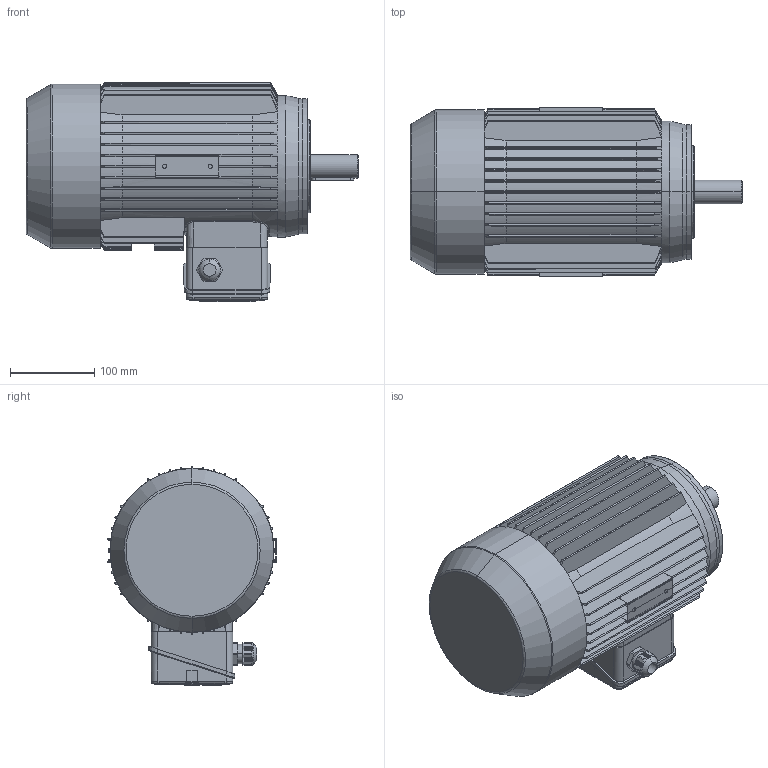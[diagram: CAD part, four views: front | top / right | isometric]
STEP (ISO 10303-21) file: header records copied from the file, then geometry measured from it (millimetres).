
FILE_DESCRIPTION (( 'STEP AP214' ), '1' );
FILE_NAME ('MAP100L4B IM3641 FT130.STEP', '2020-12-22T08:04:35', ( '' ), ( '' ), 'SwSTEP 2.0', 'SolidWorks 2018', '' );
FILE_SCHEMA (( 'AUTOMOTIVE_DESIGN' ));
Length unit declared in the file: millimetre
Products named in the file (1): MAP100L4B IM3641 FT130
Bounding box: 394 x 200 x 260 mm (x, y, z)
Volume: 8662012.4 mm3; surface area: 549207.3 mm2
Topology: 2 solids, 8 shells, 1098 faces, 2873 edges, 1824 vertices
Faces by surface type: plane 515, cylinder 245, cone 174, bspline 113, torus 49, sphere 2
Entity records: 41888 total; most frequent: CARTESIAN_POINT 16404, ORIENTED_EDGE 5730, DIRECTION 4739, EDGE_CURVE 2865, VERTEX_POINT 1824, AXIS2_PLACEMENT_3D 1659, VECTOR 1421, LINE 1421
